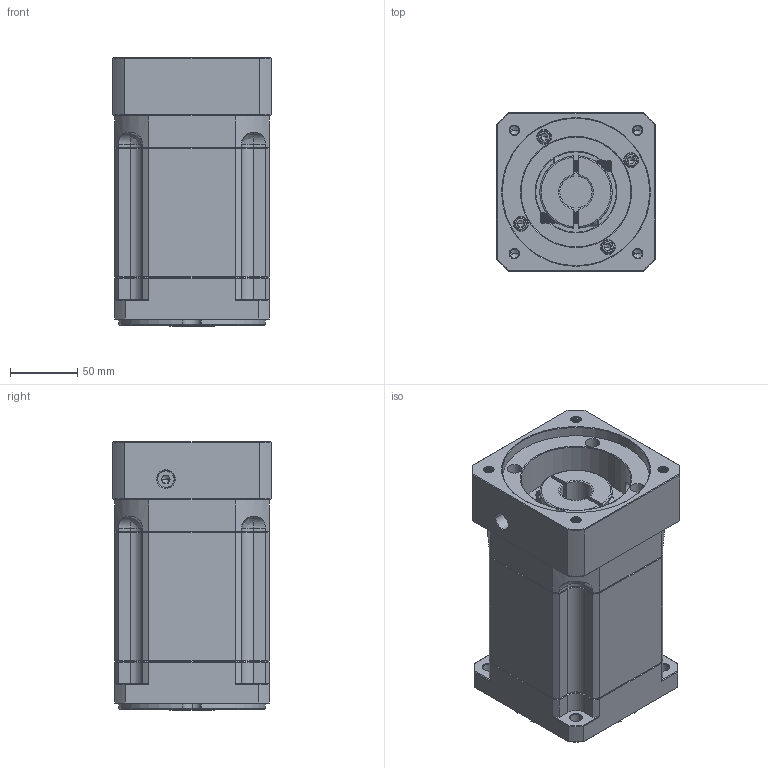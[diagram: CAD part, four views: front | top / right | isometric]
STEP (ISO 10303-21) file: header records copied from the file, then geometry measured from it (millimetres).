
FILE_DESCRIPTION (( 'STEP AP214' ), '1' );
FILE_NAME ('ZB115A-K25-L3-24-110-130-M8.step', '2023-03-02T09:06:12', ( '' ), ( 'Microsoft' ), 'SwSTEP 2.0', 'SolidWorks 2016', '' );
FILE_SCHEMA (( 'AUTOMOTIVE_DESIGN' ));
Length unit declared in the file: millimetre
Products named in the file (1): ZB115A-K25-L3-24-110-130-M8
Bounding box: 118 x 118 x 200.5 mm (x, y, z)
Volume: 2158825.5 mm3; surface area: 191502.5 mm2
Topology: 6 solids, 6 shells, 2062 faces, 5323 edges, 3356 vertices
Faces by surface type: plane 957, cylinder 408, cone 361, bspline 316, torus 20
Entity records: 107864 total; most frequent: CARTESIAN_POINT 37598, ORIENTED_EDGE 10582, DIRECTION 8736, EDGE_CURVE 5291, VERTEX_POINT 3356, LINE 3322, VECTOR 3322, AXIS2_PLACEMENT_3D 2707
